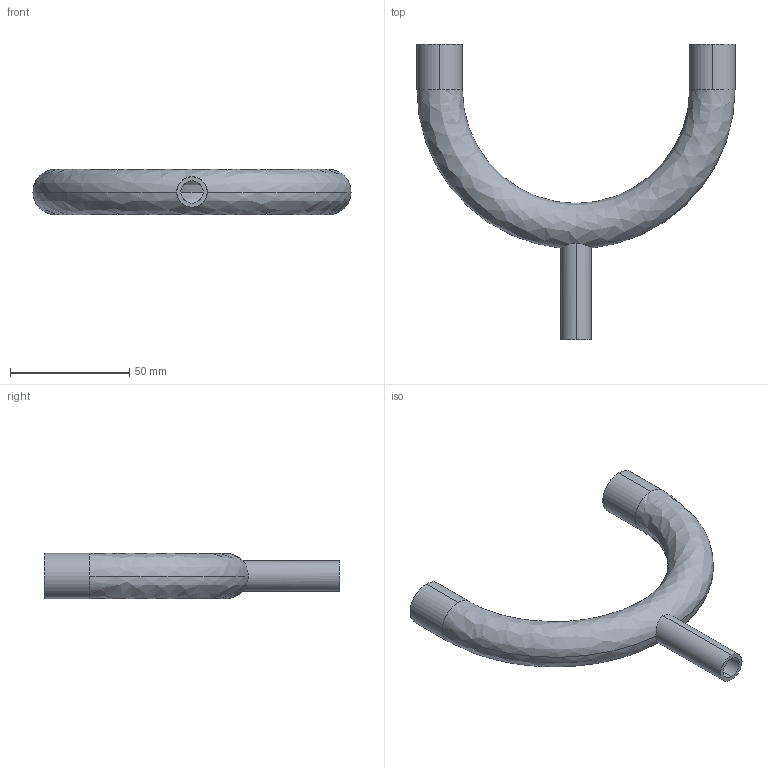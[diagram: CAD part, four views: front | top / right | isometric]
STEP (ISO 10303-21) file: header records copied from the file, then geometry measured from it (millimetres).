
FILE_DESCRIPTION (( 'STEP AP214' ), '1' );
FILE_NAME ('TE2UBWWW6L.75x.5-...STEP', '2016-05-25T05:24:42', ( 'eran' ), ( '' ), 'SwSTEP 2.0', 'SolidWorks 2016', '' );
FILE_SCHEMA (( 'AUTOMOTIVE_DESIGN' ));
Length unit declared in the file: millimetre
Products named in the file (1): TE2UBWWW6L.75x.5-..
Bounding box: 133.35 x 123.8 x 19.05 mm (x, y, z)
Volume: 21749.2 mm3; surface area: 26593.3 mm2
Topology: 1 solids, 1 shells, 19 faces, 54 edges, 36 vertices
Faces by surface type: cylinder 12, bspline 4, plane 3
Entity records: 856 total; most frequent: CARTESIAN_POINT 314, DIRECTION 112, ORIENTED_EDGE 108, EDGE_CURVE 54, AXIS2_PLACEMENT_3D 50, VERTEX_POINT 36, CIRCLE 34, EDGE_LOOP 22
